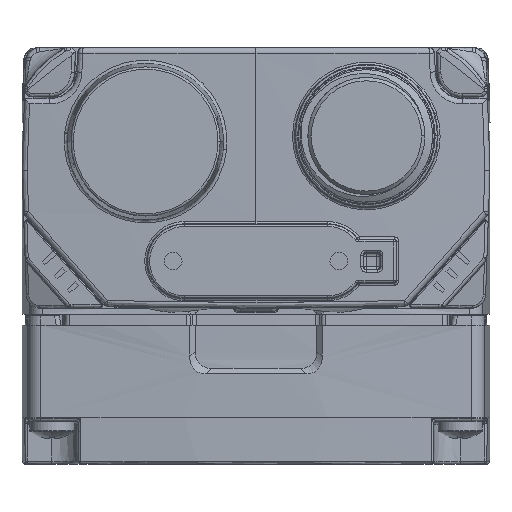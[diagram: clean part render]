
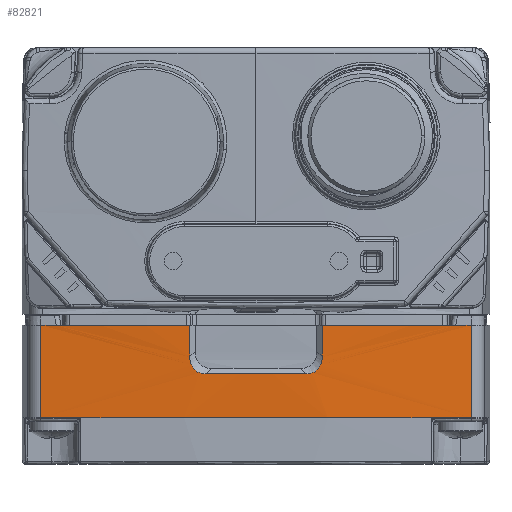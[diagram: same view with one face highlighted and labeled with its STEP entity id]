
A CAD part, front view. The second image highlights one B-rep face of the part: STEP entity #82821.
In plain terms, the highlighted cylindrical face has radius 232 mm (diameter 464 mm), a partial arc.
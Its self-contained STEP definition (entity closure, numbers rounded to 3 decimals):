
#138 = CARTESIAN_POINT ( 'NONE',  ( -5.84, -10.926, -4.658 ) ) ;
#944 = CARTESIAN_POINT ( 'NONE',  ( -4.721, -10.952, -5.4 ) ) ;
#1066 = CARTESIAN_POINT ( 'NONE',  ( 6., -10.922, -4.082 ) ) ;
#2579 = EDGE_CURVE ( 'NONE', #157852, #29861, #153559, .T. ) ;
#3473 = LINE ( 'NONE', #142866, #71326 ) ;
#8800 = EDGE_CURVE ( 'NONE', #151006, #74500, #105104, .T. ) ;
#9523 = VERTEX_POINT ( 'NONE', #43916 ) ;
#10698 = B_SPLINE_CURVE_WITH_KNOTS ( 'NONE', 3,
 ( #128615, #62674, #112798, #87750, #138, #12635, #11809, #125327, #101908, #51806, #152890, #153716, #944, #113607 ),
 .UNSPECIFIED., .F., .F.,
 ( 4, 2, 2, 2, 2, 2, 4 ),
 ( 0., 0.001, 0.001, 0.001, 0.001, 0.002, 0.002 ),
 .UNSPECIFIED. ) ;
#11034 = ORIENTED_EDGE ( 'NONE', *, *, #70583, .F. ) ;
#11153 = ORIENTED_EDGE ( 'NONE', *, *, #114785, .T. ) ;
#11809 = CARTESIAN_POINT ( 'NONE',  ( -5.68, -10.93, -4.911 ) ) ;
#12635 = CARTESIAN_POINT ( 'NONE',  ( -5.741, -10.929, -4.829 ) ) ;
#13607 = CARTESIAN_POINT ( 'NONE',  ( 18.089, -10.294, -1. ) ) ;
#15226 = CARTESIAN_POINT ( 'NONE',  ( 5.88, -10.925, -4.567 ) ) ;
#22717 = CARTESIAN_POINT ( 'NONE',  ( -6., -10.922, -3.881 ) ) ;
#22985 = DIRECTION ( 'NONE',  ( 0., 0., 1. ) ) ;
#23399 = DIRECTION ( 'NONE',  ( 0., 0., 1. ) ) ;
#23570 = CARTESIAN_POINT ( 'NONE',  ( 0., 221., -9.4 ) ) ;
#23892 = DIRECTION ( 'NONE',  ( 0., 0., 1. ) ) ;
#27175 = ORIENTED_EDGE ( 'NONE', *, *, #97541, .F. ) ;
#29861 = VERTEX_POINT ( 'NONE', #157019 ) ;
#30169 = ORIENTED_EDGE ( 'NONE', *, *, #162261, .F. ) ;
#30759 = EDGE_CURVE ( 'NONE', #29861, #134120, #73153, .T. ) ;
#32146 = CARTESIAN_POINT ( 'NONE',  ( 0., 221., -13.6 ) ) ;
#32187 = DIRECTION ( 'NONE',  ( 1., 0., 0. ) ) ;
#32681 = CARTESIAN_POINT ( 'NONE',  ( -18.089, -10.294, -1. ) ) ;
#33089 = VECTOR ( 'NONE', #48773, 1000. ) ;
#33655 = ORIENTED_EDGE ( 'NONE', *, *, #42892, .T. ) ;
#33876 = LINE ( 'NONE', #60521, #61178 ) ;
#37798 = CARTESIAN_POINT ( 'NONE',  ( 4.923, -10.948, -5.372 ) ) ;
#41420 = AXIS2_PLACEMENT_3D ( 'NONE', #118178, #51439, #52259 ) ;
#42503 = VERTEX_POINT ( 'NONE', #128654 ) ;
#42892 = EDGE_CURVE ( 'NONE', #135437, #151006, #142742, .T. ) ;
#43916 = CARTESIAN_POINT ( 'NONE',  ( -6., -10.922, -1. ) ) ;
#47090 = CYLINDRICAL_SURFACE ( 'NONE', #89027, 232. ) ;
#47951 = ORIENTED_EDGE ( 'NONE', *, *, #159773, .F. ) ;
#48274 = EDGE_CURVE ( 'NONE', #157852, #74500, #3473, .T. ) ;
#48773 = DIRECTION ( 'NONE',  ( 0., 0., 1. ) ) ;
#49100 = AXIS2_PLACEMENT_3D ( 'NONE', #52708, #114489, #51053 ) ;
#50429 = CARTESIAN_POINT ( 'NONE',  ( -19.492, -10.18, -13.6 ) ) ;
#51053 = DIRECTION ( 'NONE',  ( 1., 0., 0. ) ) ;
#51439 = DIRECTION ( 'NONE',  ( 0., 0., -1. ) ) ;
#51806 = CARTESIAN_POINT ( 'NONE',  ( -5.296, -10.94, -5.226 ) ) ;
#51811 = EDGE_CURVE ( 'NONE', #154592, #9523, #33876, .T. ) ;
#51924 = CARTESIAN_POINT ( 'NONE',  ( 5.68, -10.93, -4.911 ) ) ;
#52259 = DIRECTION ( 'NONE',  ( 1., 0., 0. ) ) ;
#52708 = CARTESIAN_POINT ( 'NONE',  ( 0., 221., -1. ) ) ;
#54210 = CARTESIAN_POINT ( 'NONE',  ( 0., 221., -1. ) ) ;
#55446 = AXIS2_PLACEMENT_3D ( 'NONE', #54210, #117653, #156094 ) ;
#57807 = CARTESIAN_POINT ( 'NONE',  ( -19.492, -10.18, -1. ) ) ;
#58030 = DIRECTION ( 'NONE',  ( 0., 0., -1. ) ) ;
#60521 = CARTESIAN_POINT ( 'NONE',  ( -6., -10.922, -13.6 ) ) ;
#61107 = DIRECTION ( 'NONE',  ( -1., 0., 0. ) ) ;
#61178 = VECTOR ( 'NONE', #22985, 1000. ) ;
#61400 = ORIENTED_EDGE ( 'NONE', *, *, #51811, .T. ) ;
#62110 = LINE ( 'NONE', #50429, #33089 ) ;
#62674 = CARTESIAN_POINT ( 'NONE',  ( -6., -10.922, -4.082 ) ) ;
#65032 = VERTEX_POINT ( 'NONE', #57807 ) ;
#70583 = EDGE_CURVE ( 'NONE', #65032, #138848, #164752, .T. ) ;
#71326 = VECTOR ( 'NONE', #129489, 1000. ) ;
#72675 = CARTESIAN_POINT ( 'NONE',  ( 6., -10.922, -3.881 ) ) ;
#73153 = CIRCLE ( 'NONE', #94501, 232. ) ;
#74500 = VERTEX_POINT ( 'NONE', #124920 ) ;
#75351 = CARTESIAN_POINT ( 'NONE',  ( 5.741, -10.929, -4.829 ) ) ;
#79777 = ORIENTED_EDGE ( 'NONE', *, *, #48274, .F. ) ;
#81833 = CARTESIAN_POINT ( 'NONE',  ( -19.492, -10.18, -9.4 ) ) ;
#82821 = ADVANCED_FACE ( 'NONE', ( #145700 ), #47090, .T. ) ;
#86552 = CARTESIAN_POINT ( 'NONE',  ( 19.492, -10.18, -1. ) ) ;
#87750 = CARTESIAN_POINT ( 'NONE',  ( -5.88, -10.925, -4.567 ) ) ;
#88670 = CARTESIAN_POINT ( 'NONE',  ( 5.465, -10.936, -5.119 ) ) ;
#89027 = AXIS2_PLACEMENT_3D ( 'NONE', #32146, #146528, #107241 ) ;
#89487 = CARTESIAN_POINT ( 'NONE',  ( 6., -10.922, -3.881 ) ) ;
#90898 = CARTESIAN_POINT ( 'NONE',  ( 19.492, -10.18, -13.6 ) ) ;
#94501 = AXIS2_PLACEMENT_3D ( 'NONE', #145740, #58030, #32187 ) ;
#96797 = CARTESIAN_POINT ( 'NONE',  ( -4.519, -10.956, -5.4 ) ) ;
#97541 = EDGE_CURVE ( 'NONE', #146842, #65032, #62110, .T. ) ;
#98178 = DIRECTION ( 'NONE',  ( -1., 0., 0. ) ) ;
#99244 = CIRCLE ( 'NONE', #163296, 232. ) ;
#101908 = CARTESIAN_POINT ( 'NONE',  ( -5.465, -10.936, -5.119 ) ) ;
#102845 = CARTESIAN_POINT ( 'NONE',  ( 5.205, -10.942, -5.27 ) ) ;
#105104 = CIRCLE ( 'NONE', #49100, 232. ) ;
#105672 = ORIENTED_EDGE ( 'NONE', *, *, #30759, .T. ) ;
#106594 = CARTESIAN_POINT ( 'NONE',  ( 0., 221., -1. ) ) ;
#107241 = DIRECTION ( 'NONE',  ( 1., 0., 0. ) ) ;
#107970 = ORIENTED_EDGE ( 'NONE', *, *, #149149, .T. ) ;
#109573 = DIRECTION ( 'NONE',  ( 0., 0., 1. ) ) ;
#112798 = CARTESIAN_POINT ( 'NONE',  ( -5.974, -10.923, -4.282 ) ) ;
#113607 = CARTESIAN_POINT ( 'NONE',  ( -4.519, -10.956, -5.4 ) ) ;
#114489 = DIRECTION ( 'NONE',  ( 0., 0., -1. ) ) ;
#114547 = CARTESIAN_POINT ( 'NONE',  ( 5.974, -10.923, -4.282 ) ) ;
#114785 = EDGE_CURVE ( 'NONE', #146842, #42503, #99244, .T. ) ;
#117653 = DIRECTION ( 'NONE',  ( 0., 0., 1. ) ) ;
#118178 = CARTESIAN_POINT ( 'NONE',  ( 0., 221., -1. ) ) ;
#124920 = CARTESIAN_POINT ( 'NONE',  ( 6., -10.922, -1. ) ) ;
#125158 = AXIS2_PLACEMENT_3D ( 'NONE', #106594, #23892, #98178 ) ;
#125327 = CARTESIAN_POINT ( 'NONE',  ( -5.542, -10.934, -5.056 ) ) ;
#128615 = CARTESIAN_POINT ( 'NONE',  ( -6., -10.922, -3.881 ) ) ;
#128654 = CARTESIAN_POINT ( 'NONE',  ( 19.492, -10.18, -9.4 ) ) ;
#128737 = CARTESIAN_POINT ( 'NONE',  ( 4.519, -10.956, -5.4 ) ) ;
#129489 = DIRECTION ( 'NONE',  ( 0., 0., 1. ) ) ;
#134120 = VERTEX_POINT ( 'NONE', #96797 ) ;
#135437 = VERTEX_POINT ( 'NONE', #86552 ) ;
#138839 = CARTESIAN_POINT ( 'NONE',  ( 5.542, -10.934, -5.056 ) ) ;
#138848 = VERTEX_POINT ( 'NONE', #32681 ) ;
#140221 = LINE ( 'NONE', #90898, #142275 ) ;
#140470 = CARTESIAN_POINT ( 'NONE',  ( 5.296, -10.94, -5.226 ) ) ;
#142275 = VECTOR ( 'NONE', #23399, 1000. ) ;
#142742 = CIRCLE ( 'NONE', #41420, 232. ) ;
#142866 = CARTESIAN_POINT ( 'NONE',  ( 6., -10.922, -13.6 ) ) ;
#145700 = FACE_OUTER_BOUND ( 'NONE', #162845, .T. ) ;
#145740 = CARTESIAN_POINT ( 'NONE',  ( 0., 221., -5.4 ) ) ;
#146528 = DIRECTION ( 'NONE',  ( 0., 0., 1. ) ) ;
#146842 = VERTEX_POINT ( 'NONE', #81833 ) ;
#149149 = EDGE_CURVE ( 'NONE', #42503, #135437, #140221, .T. ) ;
#151006 = VERTEX_POINT ( 'NONE', #13607 ) ;
#152890 = CARTESIAN_POINT ( 'NONE',  ( -5.205, -10.942, -5.27 ) ) ;
#153559 = B_SPLINE_CURVE_WITH_KNOTS ( 'NONE', 3,
 ( #89487, #1066, #114547, #15226, #164722, #75351, #51924, #138839, #88670, #140470, #102845, #37798, #153838, #128737 ),
 .UNSPECIFIED., .F., .F.,
 ( 4, 2, 2, 2, 2, 2, 4 ),
 ( 0., 0.001, 0.001, 0.001, 0.001, 0.002, 0.002 ),
 .UNSPECIFIED. ) ;
#153716 = CARTESIAN_POINT ( 'NONE',  ( -4.923, -10.948, -5.372 ) ) ;
#153838 = CARTESIAN_POINT ( 'NONE',  ( 4.721, -10.952, -5.4 ) ) ;
#154592 = VERTEX_POINT ( 'NONE', #22717 ) ;
#156094 = DIRECTION ( 'NONE',  ( -1., 0., 0. ) ) ;
#157019 = CARTESIAN_POINT ( 'NONE',  ( 4.519, -10.956, -5.4 ) ) ;
#157852 = VERTEX_POINT ( 'NONE', #72675 ) ;
#159635 = ORIENTED_EDGE ( 'NONE', *, *, #8800, .T. ) ;
#159773 = EDGE_CURVE ( 'NONE', #138848, #9523, #165249, .T. ) ;
#160882 = ORIENTED_EDGE ( 'NONE', *, *, #2579, .T. ) ;
#162261 = EDGE_CURVE ( 'NONE', #154592, #134120, #10698, .T. ) ;
#162845 = EDGE_LOOP ( 'NONE', ( #47951, #11034, #27175, #11153, #107970, #33655, #159635, #79777, #160882, #105672, #30169, #61400 ) ) ;
#163296 = AXIS2_PLACEMENT_3D ( 'NONE', #23570, #109573, #61107 ) ;
#164722 = CARTESIAN_POINT ( 'NONE',  ( 5.84, -10.926, -4.658 ) ) ;
#164752 = CIRCLE ( 'NONE', #55446, 232. ) ;
#165249 = CIRCLE ( 'NONE', #125158, 232. ) ;
